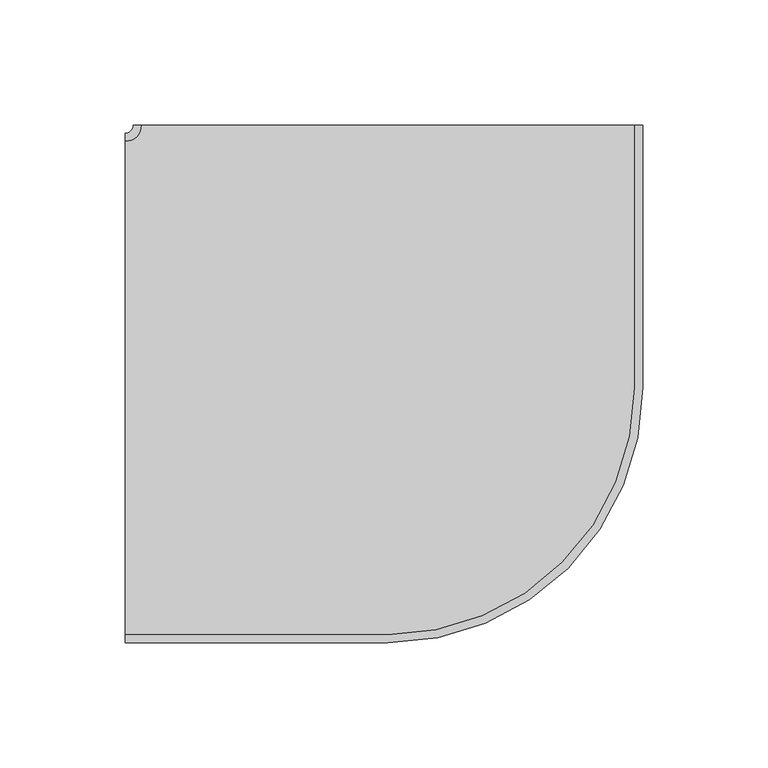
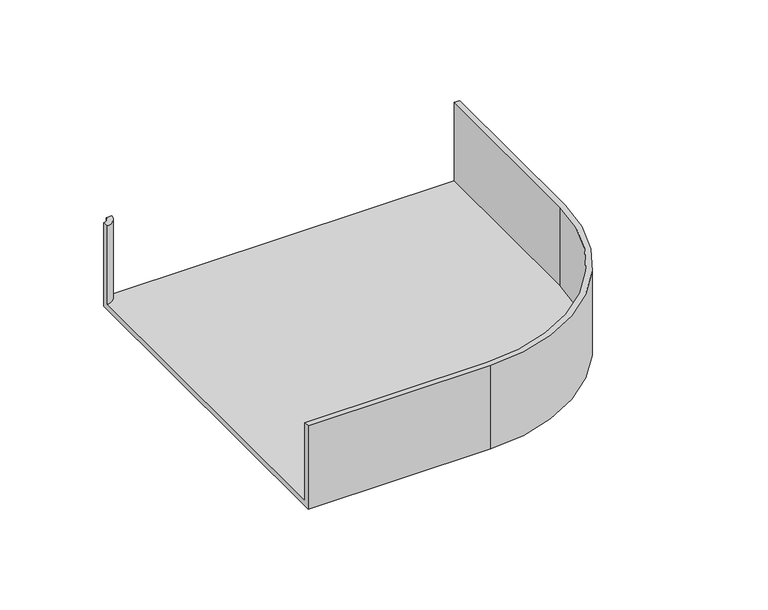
"""IFC4 building model written with IfcOpenShell, lengths in millimetres: cable carrier fitting geometry, Bend-Horizontal-Cablofil-Wire_Mesh_Cable_Tray : RAD T 90 KIT."""

from ifc_helpers import new_model, si_unit, frame, origin, place, context, project, spatial, polyline, circle_curve, source, transform, mapped, element, save
from ifc_brep_helpers import plane_surface, cylinder_surface, revolved_surface, advanced_brep


def cable_carrier_fitting_27584eda(model_context):
    return source(origin(), model_context, "Body", "AdvancedBrep", [
        advanced_brep(
        [(-98.425, 104.775, 25.4), (-98.425, 104.775, -22.225), (98.425, 104.775, -22.225), (98.425, 104.775, 25.4), (101.6, 104.775, 25.4), (101.6, 104.775, -25.4), (-101.6, 104.775, -25.4), (-101.6, 104.775, 25.4), (-104.775, 98.425, 25.4), (-104.775, 101.6, 25.4), (-104.775, 101.6, -25.4), (-104.775, -101.6, -25.4), (-104.775, -101.6, 25.4), (-104.775, -98.425, 25.4), (-104.775, -98.425, -22.225), (-104.775, 98.425, -22.225), (101.6, 0.0, -25.4), (0.0, -101.6, -25.4), (98.425, 0.0, 25.4), (0.0, -98.425, 25.4), (0.0, -101.6, 25.4), (101.6, 0.0, 25.4), (98.425, 0.0, -22.225), (0.0, -98.425, -22.225)],
        [
            (0, 1),
            (1, 2),
            (2, 3),
            (3, 4),
            (4, 5),
            (5, 6),
            (6, 7),
            (7, 0),
            (8, 9),
            (9, 10),
            (10, 11),
            (11, 12),
            (12, 13),
            (13, 14),
            (14, 15),
            (15, 8),
            (10, 6, circle_curve(frame((-104.775, 104.775, -25.4), z_axis=(0.0, 0.0, 1.0), x_axis=(1.0000000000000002, 0.0, 0.0)), 3.175)),
            (5, 16),
            (16, 17, circle_curve(frame((0.0, 0.0, -25.4), z_axis=(0.0, 0.0, -1.0), x_axis=(1.0, 0.0, 0.0)), 101.6)),
            (17, 11),
            (9, 7, circle_curve(frame((-104.775, 104.775, 25.4), z_axis=(0.0, 0.0, 1.0), x_axis=(1.0000000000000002, 0.0, 0.0)), 3.175)),
            (8, 0, circle_curve(frame((-104.775, 104.775, 25.4), z_axis=(0.0, 0.0, 1.0), x_axis=(1.0000000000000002, 0.0, 0.0)), 6.35)),
            (3, 18),
            (18, 19, circle_curve(frame((0.0, 0.0, 25.4), z_axis=(0.0, 0.0, -1.0), x_axis=(1.0, 0.0, 0.0)), 98.425)),
            (19, 13),
            (12, 20),
            (20, 21, circle_curve(frame((0.0, 0.0, 25.4), z_axis=(0.0, 0.0, 1.0), x_axis=(1.0, 0.0, 0.0)), 101.6)),
            (21, 4),
            (21, 16),
            (2, 22),
            (22, 18),
            (20, 17),
            (22, 23, circle_curve(frame((0.0, 0.0, -22.225), z_axis=(0.0, 0.0, -1.0), x_axis=(1.0, 0.0, 0.0)), 98.425)),
            (23, 19),
            (23, 14),
            (15, 1, circle_curve(frame((-104.775, 104.775, -22.225), z_axis=(0.0, 0.0, 1.0), x_axis=(1.0000000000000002, 0.0, 0.0)), 6.35)),
        ],
        [
            plane_surface(frame((-104.775, 104.775, -304.8), z_axis=(0.0, 1.0, 0.0), x_axis=(1.0, 0.0, 0.0))),
            plane_surface(frame((-104.775, 104.775, -304.8), z_axis=(-1.0, 0.0, 0.0), x_axis=(0.0, -1.0, 0.0))),
            plane_surface(frame((-104.775, 104.775, -25.4), z_axis=(0.0, 0.0, -1.0), x_axis=(1.0, 0.0, 0.0))),
            revolved_surface(polyline([(-101.60000000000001, 104.775, -25.399999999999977), (-101.60000000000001, 104.775, 25.399999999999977)]), (-104.775, 104.775, -304.8), (0.0, 0.0, -1.0)),
            plane_surface(frame((-104.775, 104.775, 25.4), z_axis=(0.0, 0.0, 1.0), x_axis=(1.0, 0.0, 0.0))),
            plane_surface(frame((98.425, 104.775, 25.4), z_axis=(0.0, 0.0, 1.0), x_axis=(0.0, -1.0, 0.0))),
            plane_surface(frame((101.6, 104.775, 25.4), z_axis=(1.0, 0.0, 0.0), x_axis=(0.0, -1.0, 0.0))),
            plane_surface(frame((98.425, 104.775, -22.225), z_axis=(-1.0, 0.0, 0.0), x_axis=(0.0, -1.0, 0.0))),
            cylinder_surface(frame((0.0, 0.0, 0.0), z_axis=(0.0, 0.0, -1.0), x_axis=(1.0, 0.0, 0.0)), 101.6),
            revolved_surface(polyline([(98.425, 0.0, -22.225), (98.425, 0.0, 25.4)]), (0.0, 0.0, 0.0), (0.0, 0.0, -1.0)),
            plane_surface(frame((0.0, -101.6, 25.4), z_axis=(0.0, -1.0, 0.0), x_axis=(-1.0, 0.0, 0.0))),
            plane_surface(frame((0.0, -98.425, -22.225), z_axis=(0.0, 1.0, 0.0), x_axis=(-1.0, 0.0, 0.0))),
            cylinder_surface(frame((-104.775, 104.775, -304.8), z_axis=(0.0, 0.0, -1.0), x_axis=(1.0000000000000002, 0.0, 0.0)), 6.35),
            plane_surface(frame((-104.775, 104.775, -22.225), z_axis=(0.0, 0.0, 1.0), x_axis=(1.0, 0.0, 0.0))),
        ],
        [
            (0, [[1, 2, 3, 4, 5, 6, 7, 8]]),
            (1, [[9, 10, 11, 12, 13, 14, 15, 16]]),
            (2, [[-11, 17, -6, 18, 19, 20]]),
            (3, [[-7, -17, -10, 21]]),
            (4, [[-8, -21, -9, 22]]),
            (5, [[-4, 23, 24, 25, -13, 26, 27, 28]]),
            (6, [[-5, -28, 29, -18]]),
            (7, [[-3, 30, 31, -23]]),
            (8, [[-27, 32, -19, -29]]),
            (9, [[-24, -31, 33, 34]]),
            (10, [[-26, -12, -20, -32]]),
            (11, [[-25, -34, 35, -14]]),
            (12, [[-1, -22, -16, 36]]),
            (13, [[-2, -36, -15, -35, -33, -30]]),
        ],
    ),
    ])


if __name__ == "__main__":
    model = new_model("IFC4")
    model_context = context("Model", 3, world=origin())
    ifc_project = project(units=[si_unit("LENGTHUNIT", "METRE", prefix="MILLI")], contexts=[model_context])
    site = spatial("IfcSite", under=ifc_project)
    building = spatial("IfcBuilding", under=site)
    placement = place(None, origin())
    cable_carrier_fitting_shape = cable_carrier_fitting_27584eda(model_context)
    element("IfcCableCarrierFitting", 1, ObjectType="Bend-Horizontal-Cablofil-Wire_Mesh_Cable_Tray : RAD T 90 KIT", at=placement, inside=building, context=model_context, shape_type="MappedRepresentation", body=[
        mapped(cable_carrier_fitting_shape, transform((0.0, 0.0, 0.0), x_axis=(1.0, 0.0, 0.0), y_axis=(0.0, 1.0, 0.0), z_axis=(0.0, 0.0, 1.0))),
    ])
    save(model, "model.ifc")
